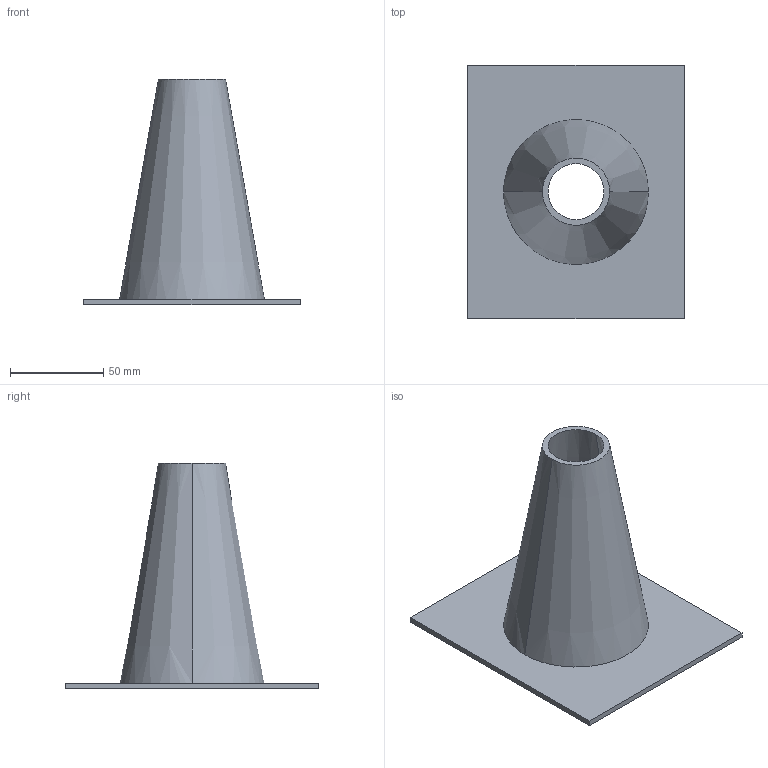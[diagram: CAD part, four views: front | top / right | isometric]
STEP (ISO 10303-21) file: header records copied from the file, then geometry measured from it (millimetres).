
FILE_DESCRIPTION(('CATIA V5 STEP Exchange'),'2;1');
FILE_NAME('C:\_Andres\UNIVERSIDAD\IQS\ASIGNATURAS\DAO\EXF\EXF-15161c\1original\Subirada_Blanco_Ej08-ensambla_v26.stp','2016-03-04T21:37:20+00:00',('none'),('none'),'CATIA Version 5 Release 20 SP 1 (IN-10)','CATIA V5 STEP AP203','none');
FILE_SCHEMA(('CONFIG_CONTROL_DESIGN'));
Length unit declared in the file: millimetre
Products named in the file (1): Subirada_Blanco_Ej08-ensambla_v26
Bounding box: 116 x 136 x 121 mm (x, y, z)
Volume: 95879.7 mm3; surface area: 65723.9 mm2
Topology: 1 solids, 1 shells, 11 faces, 24 edges, 16 vertices
Faces by surface type: plane 7, cone 4
Entity records: 414 total; most frequent: CARTESIAN_POINT 127, ORIENTED_EDGE 48, DIRECTION 44, EDGE_CURVE 24, AXIS2_PLACEMENT_3D 17, VECTOR 16, LINE 16, VERTEX_POINT 16
